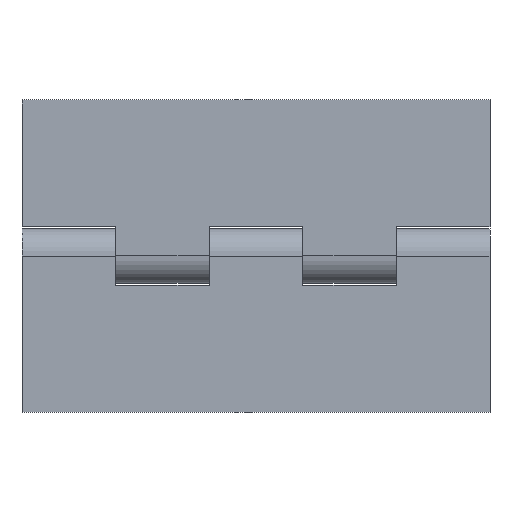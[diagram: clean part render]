
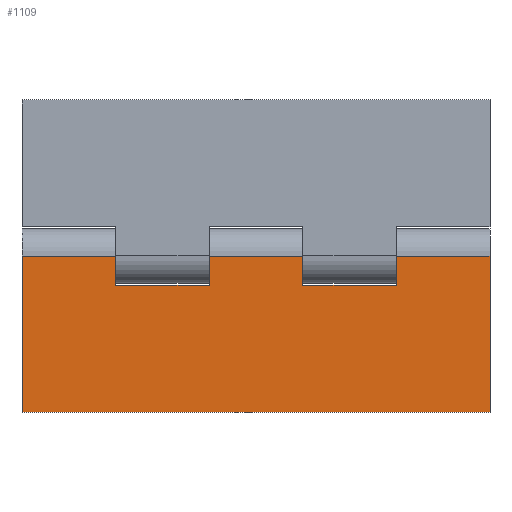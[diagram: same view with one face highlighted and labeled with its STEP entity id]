
A CAD part, front view. The second image highlights one B-rep face of the part: STEP entity #1109.
In plain terms, the highlighted planar face has unit normal (0, -1, 0).
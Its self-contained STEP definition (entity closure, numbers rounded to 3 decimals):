
#22 = CARTESIAN_POINT ( 'NONE',  ( -22.5, 0., -4.7 ) ) ;
#28 = CARTESIAN_POINT ( 'NONE',  ( -22.5, 0., 4.4 ) ) ;
#48 = LINE ( 'NONE', #853, #2271 ) ;
#70 = VERTEX_POINT ( 'NONE', #929 ) ;
#71 = CARTESIAN_POINT ( 'NONE',  ( 37.5, 0., -25. ) ) ;
#166 = VECTOR ( 'NONE', #2268, 1000. ) ;
#196 = CARTESIAN_POINT ( 'NONE',  ( 37.5, 0., 0. ) ) ;
#198 = LINE ( 'NONE', #28, #1292 ) ;
#199 = CARTESIAN_POINT ( 'NONE',  ( -22.5, 0., -4.7 ) ) ;
#279 = CARTESIAN_POINT ( 'NONE',  ( 37.5, 0., 0. ) ) ;
#331 = PLANE ( 'NONE',  #803 ) ;
#342 = CARTESIAN_POINT ( 'NONE',  ( 37.5, 0., 0. ) ) ;
#352 = ORIENTED_EDGE ( 'NONE', *, *, #358, .T. ) ;
#358 = EDGE_CURVE ( 'NONE', #882, #70, #431, .T. ) ;
#373 = EDGE_CURVE ( 'NONE', #1975, #2519, #48, .T. ) ;
#383 = LINE ( 'NONE', #2367, #2334 ) ;
#425 = ORIENTED_EDGE ( 'NONE', *, *, #1313, .T. ) ;
#431 = LINE ( 'NONE', #1823, #2440 ) ;
#443 = ORIENTED_EDGE ( 'NONE', *, *, #766, .T. ) ;
#589 = CARTESIAN_POINT ( 'NONE',  ( 22.5, 0., 0. ) ) ;
#713 = CARTESIAN_POINT ( 'NONE',  ( -22.5, 0., 0. ) ) ;
#766 = EDGE_CURVE ( 'NONE', #1068, #1736, #2452, .T. ) ;
#803 = AXIS2_PLACEMENT_3D ( 'NONE', #342, #1744, #2552 ) ;
#807 = VECTOR ( 'NONE', #1703, 1000. ) ;
#821 = LINE ( 'NONE', #1972, #1384 ) ;
#853 = CARTESIAN_POINT ( 'NONE',  ( -7.5, 0., 4.4 ) ) ;
#863 = CARTESIAN_POINT ( 'NONE',  ( 7.5, 0., 4.4 ) ) ;
#864 = CARTESIAN_POINT ( 'NONE',  ( 37.5, 0., 0. ) ) ;
#882 = VERTEX_POINT ( 'NONE', #1502 ) ;
#929 = CARTESIAN_POINT ( 'NONE',  ( 7.5, 0., -4.7 ) ) ;
#961 = EDGE_LOOP ( 'NONE', ( #1592, #2453, #1304, #425, #2508, #443, #2281, #1440, #2381, #1814, #1004, #352 ) ) ;
#1004 = ORIENTED_EDGE ( 'NONE', *, *, #2205, .T. ) ;
#1007 = DIRECTION ( 'NONE',  ( -1., 0., 0. ) ) ;
#1068 = VERTEX_POINT ( 'NONE', #713 ) ;
#1075 = EDGE_CURVE ( 'NONE', #1826, #2095, #2286, .T. ) ;
#1109 = ADVANCED_FACE ( 'NONE', ( #1316 ), #331, .F. ) ;
#1128 = CARTESIAN_POINT ( 'NONE',  ( -7.5, 0., -4.7 ) ) ;
#1133 = CARTESIAN_POINT ( 'NONE',  ( -37.5, 0., -25. ) ) ;
#1218 = VERTEX_POINT ( 'NONE', #589 ) ;
#1235 = DIRECTION ( 'NONE',  ( -1., 0., 0. ) ) ;
#1274 = DIRECTION ( 'NONE',  ( 0., 0., -1. ) ) ;
#1292 = VECTOR ( 'NONE', #1618, 1000. ) ;
#1293 = VECTOR ( 'NONE', #1274, 1000. ) ;
#1304 = ORIENTED_EDGE ( 'NONE', *, *, #373, .T. ) ;
#1313 = EDGE_CURVE ( 'NONE', #2519, #2431, #2565, .T. ) ;
#1316 = FACE_OUTER_BOUND ( 'NONE', #961, .T. ) ;
#1384 = VECTOR ( 'NONE', #1804, 1000. ) ;
#1440 = ORIENTED_EDGE ( 'NONE', *, *, #2310, .F. ) ;
#1448 = VECTOR ( 'NONE', #2441, 1000. ) ;
#1453 = EDGE_CURVE ( 'NONE', #2437, #1975, #1863, .T. ) ;
#1457 = VECTOR ( 'NONE', #2426, 1000. ) ;
#1502 = CARTESIAN_POINT ( 'NONE',  ( 22.5, 0., -4.7 ) ) ;
#1514 = VECTOR ( 'NONE', #2237, 1000. ) ;
#1533 = CARTESIAN_POINT ( 'NONE',  ( -7.5, 0., 0. ) ) ;
#1579 = CARTESIAN_POINT ( 'NONE',  ( 37.5, 0., -25. ) ) ;
#1592 = ORIENTED_EDGE ( 'NONE', *, *, #2340, .T. ) ;
#1603 = DIRECTION ( 'NONE',  ( -1., 0., 0. ) ) ;
#1618 = DIRECTION ( 'NONE',  ( 0., 0., 1. ) ) ;
#1634 = DIRECTION ( 'NONE',  ( 0., 0., -1. ) ) ;
#1636 = VERTEX_POINT ( 'NONE', #1133 ) ;
#1645 = LINE ( 'NONE', #71, #1448 ) ;
#1703 = DIRECTION ( 'NONE',  ( 0., 0., -1. ) ) ;
#1736 = VERTEX_POINT ( 'NONE', #1775 ) ;
#1744 = DIRECTION ( 'NONE',  ( 0., 1., 0. ) ) ;
#1775 = CARTESIAN_POINT ( 'NONE',  ( -37.5, 0., 0. ) ) ;
#1790 = EDGE_CURVE ( 'NONE', #1826, #1218, #383, .T. ) ;
#1804 = DIRECTION ( 'NONE',  ( 0., 0., -1. ) ) ;
#1814 = ORIENTED_EDGE ( 'NONE', *, *, #1790, .T. ) ;
#1823 = CARTESIAN_POINT ( 'NONE',  ( 7.5, 0., -4.7 ) ) ;
#1826 = VERTEX_POINT ( 'NONE', #196 ) ;
#1835 = LINE ( 'NONE', #863, #1457 ) ;
#1861 = EDGE_CURVE ( 'NONE', #1736, #1636, #2077, .T. ) ;
#1863 = LINE ( 'NONE', #864, #166 ) ;
#1972 = CARTESIAN_POINT ( 'NONE',  ( 22.5, 0., 4.4 ) ) ;
#1975 = VERTEX_POINT ( 'NONE', #1533 ) ;
#2077 = LINE ( 'NONE', #2258, #807 ) ;
#2078 = CARTESIAN_POINT ( 'NONE',  ( 37.5, 0., 0. ) ) ;
#2095 = VERTEX_POINT ( 'NONE', #1579 ) ;
#2198 = VECTOR ( 'NONE', #1007, 1000. ) ;
#2204 = CARTESIAN_POINT ( 'NONE',  ( 7.5, 0., 0. ) ) ;
#2205 = EDGE_CURVE ( 'NONE', #1218, #882, #821, .T. ) ;
#2206 = EDGE_CURVE ( 'NONE', #2431, #1068, #198, .T. ) ;
#2237 = DIRECTION ( 'NONE',  ( -1., 0., 0. ) ) ;
#2258 = CARTESIAN_POINT ( 'NONE',  ( -37.5, 0., 0. ) ) ;
#2268 = DIRECTION ( 'NONE',  ( -1., 0., 0. ) ) ;
#2271 = VECTOR ( 'NONE', #1634, 1000. ) ;
#2281 = ORIENTED_EDGE ( 'NONE', *, *, #1861, .T. ) ;
#2286 = LINE ( 'NONE', #2078, #1293 ) ;
#2310 = EDGE_CURVE ( 'NONE', #2095, #1636, #1645, .T. ) ;
#2334 = VECTOR ( 'NONE', #1603, 1000. ) ;
#2340 = EDGE_CURVE ( 'NONE', #70, #2437, #1835, .T. ) ;
#2367 = CARTESIAN_POINT ( 'NONE',  ( 37.5, 0., 0. ) ) ;
#2381 = ORIENTED_EDGE ( 'NONE', *, *, #1075, .F. ) ;
#2426 = DIRECTION ( 'NONE',  ( 0., 0., 1. ) ) ;
#2431 = VERTEX_POINT ( 'NONE', #22 ) ;
#2437 = VERTEX_POINT ( 'NONE', #2204 ) ;
#2440 = VECTOR ( 'NONE', #1235, 1000. ) ;
#2441 = DIRECTION ( 'NONE',  ( -1., 0., 0. ) ) ;
#2452 = LINE ( 'NONE', #279, #1514 ) ;
#2453 = ORIENTED_EDGE ( 'NONE', *, *, #1453, .T. ) ;
#2508 = ORIENTED_EDGE ( 'NONE', *, *, #2206, .T. ) ;
#2519 = VERTEX_POINT ( 'NONE', #1128 ) ;
#2552 = DIRECTION ( 'NONE',  ( 0., 0., 1. ) ) ;
#2565 = LINE ( 'NONE', #199, #2198 ) ;
